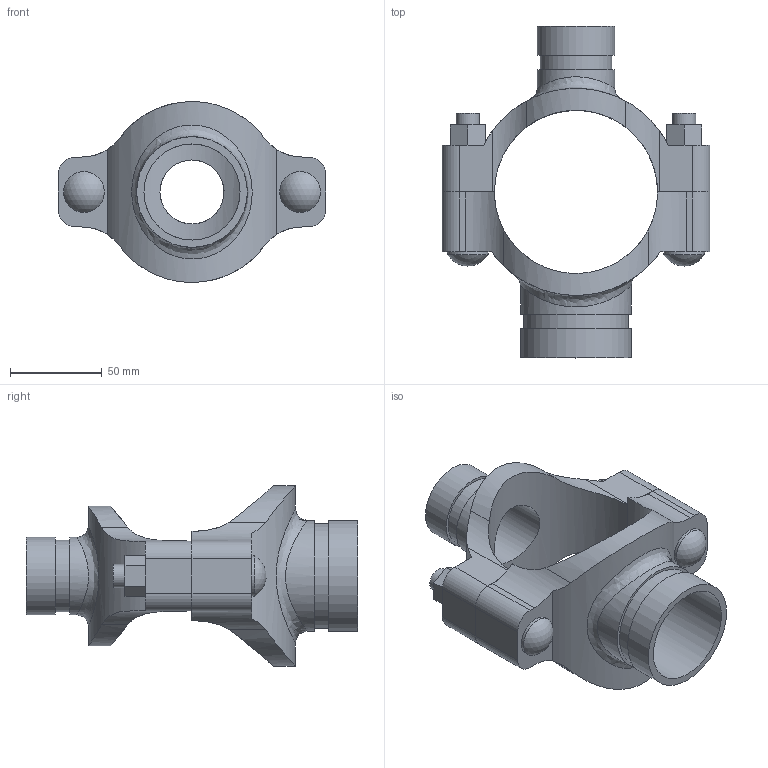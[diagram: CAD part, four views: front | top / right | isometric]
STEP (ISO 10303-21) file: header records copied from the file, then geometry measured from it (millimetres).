
FILE_DESCRIPTION(/* description */ ('VIC MECH-T BRANCH OUTLET CROSS STYLE 920N (GRVD)','CAx-IF Rec.Pracs.---Representation and Presentation of Product Manufacturing Information (PMI)---4.0---2014-10-13'),/* implementation_level */ '2;1');
FILE_NAME(/* name */ 'C:\Users\Vjadhav\AppData\Roaming\Autodesk\ApplicationPlugins\Back Up\Victaulic_IPS_Mechanical-Cross Outlet_Style 920N (OGS)\Victaulic_IPS_Mechanical-Cross Outlet_03.0x01.25x02.0 (80x32x50).stp',/* time_stamp */ '2020-08-06T19:43:24+05:00',/* author */ ('Vjadhav'),/* organization */ ('Victaulic'),/* preprocessor_version */ 'ST-DEVELOPER v17.2',/* originating_system */ 'Autodesk Inventor 2019',/* authorisation */ '');
FILE_SCHEMA (('AP242_MANAGED_MODEL_BASED_3D_ENGINEERING_MIM_LF { 1 0 10303 442 1 1 4 }'));
Length unit declared in the file: inch
Products named in the file (3): 920NG-03.0x01.25x02.0; 920NG-03.0x01.25x01.25; 920NG-03.0x02.0
Assembly tree (2 placements, depth 2):
  920NG-03.0x01.25x02.0
    920NG-03.0x01.25x01.25
    920NG-03.0x02.0
Bounding box: 146.05 x 180.85 x 98.49 mm (x, y, z)
Volume: 307443.2 mm3; surface area: 90640.1 mm2
Topology: 2 solids, 2 shells, 106 faces, 268 edges, 182 vertices
Faces by surface type: plane 54, cylinder 48, sphere 2, bspline 2
Full cylindrical faces by diameter (mm): 12.7 x4, 22.225 x2, 34.925 x1, 38.989 x1, 42.164 x2, 52.387 x1, 57.15 x1, 60.325 x2
Entity records: 4266 total; most frequent: CARTESIAN_POINT 1439, DIRECTION 542, ORIENTED_EDGE 536, EDGE_CURVE 268, AXIS2_PLACEMENT_3D 197, VERTEX_POINT 182, LINE 148, VECTOR 148
